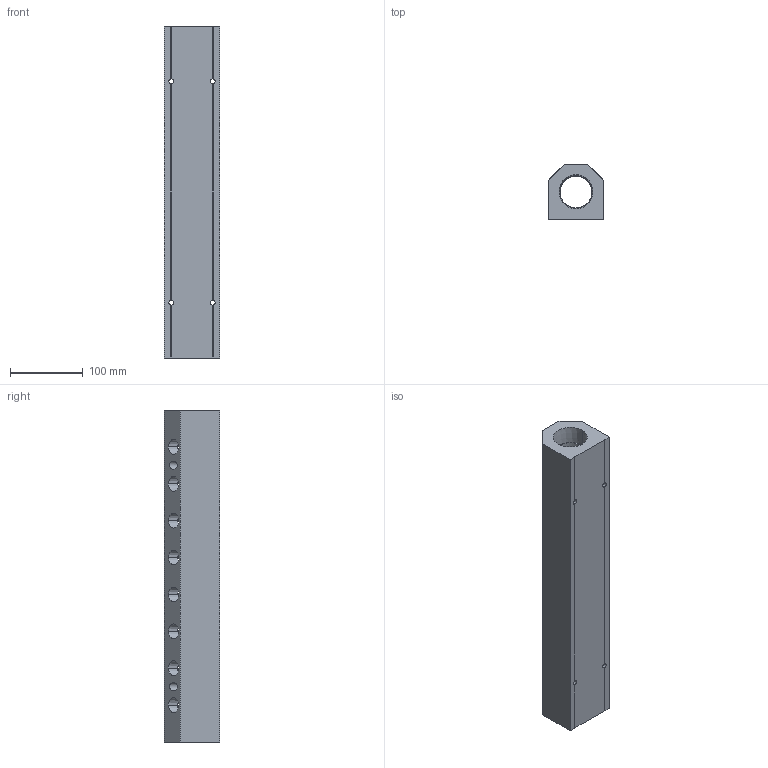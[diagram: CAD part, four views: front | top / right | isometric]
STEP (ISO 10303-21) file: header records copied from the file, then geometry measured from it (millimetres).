
FILE_DESCRIPTION (( 'STEP AP214' ), '1' );
FILE_NAME ('ALM8BCD-N8N24-457R.step', '2022-02-07T09:23:35', ( '' ), ( '' ), 'SwSTEP 2.0', 'SolidWorks 2020', '' );
FILE_SCHEMA (( 'AUTOMOTIVE_DESIGN' ));
Length unit declared in the file: millimetre
Products named in the file (1): ALM8BCD-N8N24-457R
Bounding box: 76.2 x 76.2 x 457 mm (x, y, z)
Volume: 1577964.2 mm3; surface area: 214784.8 mm2
Topology: 1 solids, 1 shells, 367 faces, 1024 edges, 680 vertices
Faces by surface type: plane 218, bspline 79, cone 52, cylinder 18
Entity records: 22315 total; most frequent: CARTESIAN_POINT 9967, ORIENTED_EDGE 2048, DIRECTION 1416, EDGE_CURVE 1024, VERTEX_POINT 680, VECTOR 670, LINE 670, EDGE_LOOP 446
